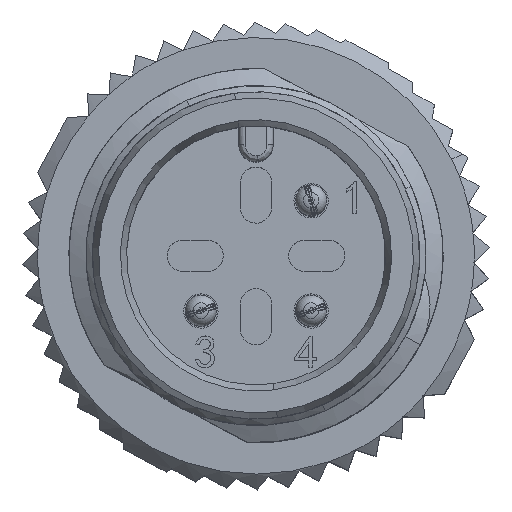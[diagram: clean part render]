
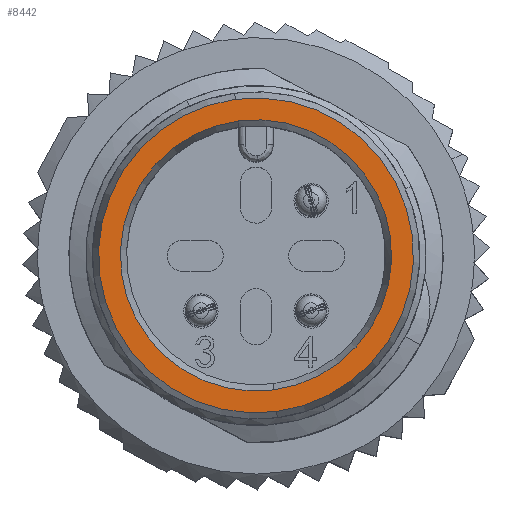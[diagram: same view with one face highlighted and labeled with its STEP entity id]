
A CAD part, top view. The second image highlights one B-rep face of the part: STEP entity #8442.
In plain terms, the highlighted planar face has unit normal (0, 0, 1).
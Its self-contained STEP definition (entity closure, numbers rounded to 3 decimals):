
#1598 = VERTEX_POINT ( 'NONE', #34414 ) ;
#1805 = CARTESIAN_POINT ( 'NONE',  ( 0.568, -4.313, 153.4 ) ) ;
#1984 = DIRECTION ( 'NONE',  ( 0., 0., -1. ) ) ;
#2623 = ORIENTED_EDGE ( 'NONE', *, *, #11072, .F. ) ;
#3885 = CIRCLE ( 'NONE', #25254, 4.35 ) ;
#3955 = DIRECTION ( 'NONE',  ( 0., 0., 1. ) ) ;
#4133 = DIRECTION ( 'NONE',  ( 1., 0., 0. ) ) ;
#4461 = EDGE_LOOP ( 'NONE', ( #14956, #26794 ) ) ;
#6266 = VERTEX_POINT ( 'NONE', #1805 ) ;
#7139 = EDGE_CURVE ( 'NONE', #1598, #27130, #21075, .T. ) ;
#8442 = ADVANCED_FACE ( 'NONE', ( #30159, #9871 ), #32651, .T. ) ;
#8532 = VERTEX_POINT ( 'NONE', #13869 ) ;
#9871 = FACE_BOUND ( 'NONE', #4461, .T. ) ;
#11072 = EDGE_CURVE ( 'NONE', #27130, #1598, #21511, .T. ) ;
#11304 = DIRECTION ( 'NONE',  ( -0.13, 0.991, 0. ) ) ;
#12106 = ORIENTED_EDGE ( 'NONE', *, *, #7139, .F. ) ;
#13647 = DIRECTION ( 'NONE',  ( 0.13, -0.991, 0. ) ) ;
#13869 = CARTESIAN_POINT ( 'NONE',  ( -0.568, 4.313, 153.4 ) ) ;
#14165 = CARTESIAN_POINT ( 'NONE',  ( 0., 0., 153.4 ) ) ;
#14956 = ORIENTED_EDGE ( 'NONE', *, *, #31336, .T. ) ;
#15460 = DIRECTION ( 'NONE',  ( 0., 0., -1. ) ) ;
#16253 = DIRECTION ( 'NONE',  ( 0., 0., -1. ) ) ;
#18142 = EDGE_LOOP ( 'NONE', ( #12106, #2623 ) ) ;
#21075 = CIRCLE ( 'NONE', #32690, 5.05 ) ;
#21511 = CIRCLE ( 'NONE', #33741, 5.05 ) ;
#23542 = DIRECTION ( 'NONE',  ( 0., 0., -1. ) ) ;
#24314 = CARTESIAN_POINT ( 'NONE',  ( 0., 0., 153.4 ) ) ;
#25254 = AXIS2_PLACEMENT_3D ( 'NONE', #28192, #1984, #13647 ) ;
#26794 = ORIENTED_EDGE ( 'NONE', *, *, #34761, .T. ) ;
#26940 = CARTESIAN_POINT ( 'NONE',  ( 0., 0., 153.4 ) ) ;
#27130 = VERTEX_POINT ( 'NONE', #29599 ) ;
#27242 = CIRCLE ( 'NONE', #33374, 4.35 ) ;
#27810 = AXIS2_PLACEMENT_3D ( 'NONE', #30348, #3955, #4133 ) ;
#28192 = CARTESIAN_POINT ( 'NONE',  ( 0., 0., 153.4 ) ) ;
#29599 = CARTESIAN_POINT ( 'NONE',  ( 0.659, -5.007, 153.4 ) ) ;
#30159 = FACE_OUTER_BOUND ( 'NONE', #18142, .T. ) ;
#30348 = CARTESIAN_POINT ( 'NONE',  ( -3.324, -3.323, 153.4 ) ) ;
#31336 = EDGE_CURVE ( 'NONE', #6266, #8532, #27242, .T. ) ;
#32651 = PLANE ( 'NONE',  #27810 ) ;
#32690 = AXIS2_PLACEMENT_3D ( 'NONE', #14165, #23542, #11304 ) ;
#33374 = AXIS2_PLACEMENT_3D ( 'NONE', #26940, #15460, #33453 ) ;
#33453 = DIRECTION ( 'NONE',  ( 0.13, -0.991, 0. ) ) ;
#33741 = AXIS2_PLACEMENT_3D ( 'NONE', #24314, #16253, #36002 ) ;
#34414 = CARTESIAN_POINT ( 'NONE',  ( -0.659, 5.007, 153.4 ) ) ;
#34761 = EDGE_CURVE ( 'NONE', #8532, #6266, #3885, .T. ) ;
#36002 = DIRECTION ( 'NONE',  ( -0.13, 0.991, 0. ) ) ;
